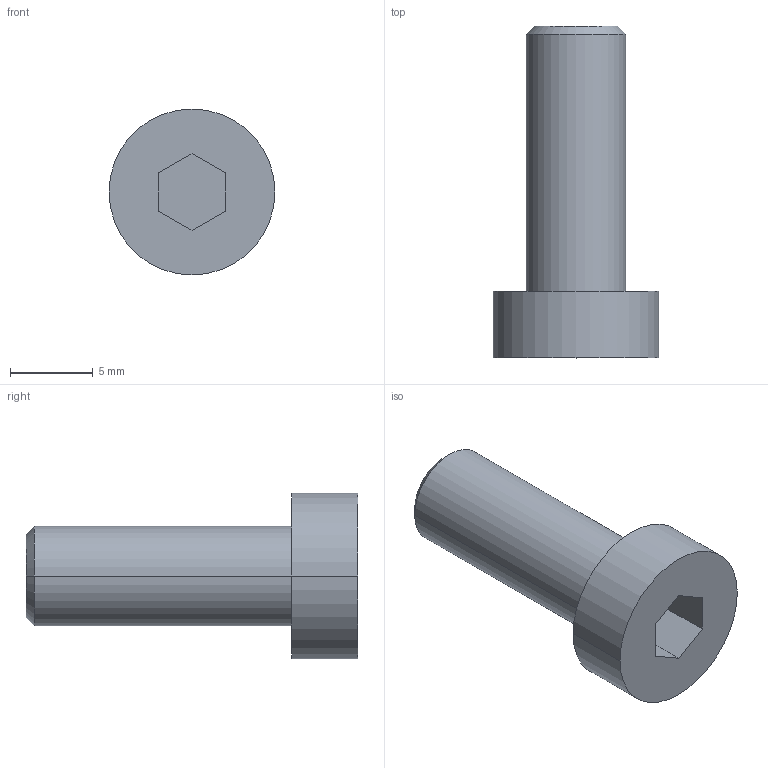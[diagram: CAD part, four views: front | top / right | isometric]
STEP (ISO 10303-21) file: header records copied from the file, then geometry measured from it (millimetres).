
FILE_DESCRIPTION((''),'2;1');
FILE_NAME('VTCEI0616','2002-12-27T',('Lipro doo'),('Lipro d.o.o.'),'PRO/ENGINEER BY PARAMETRIC TECHNOLOGY CORPORATION, 2001150','PRO/ENGINEER BY PARAMETRIC TECHNOLOGY CORPORATION, 2001150','');
FILE_SCHEMA(('CONFIG_CONTROL_DESIGN'));
Length unit declared in the file: millimetre
Products named in the file (1): VTCEI0616
Bounding box: 10 x 20 x 10 mm (x, y, z)
Volume: 722.8 mm3; surface area: 871.4 mm2
Topology: 1 solids, 2 shells, 18 faces, 40 edges, 26 vertices
Faces by surface type: plane 10, cylinder 6, cone 2
Entity records: 546 total; most frequent: DIRECTION 92, CARTESIAN_POINT 85, ORIENTED_EDGE 76, EDGE_CURVE 40, AXIS2_PLACEMENT_3D 33, VECTOR 26, LINE 26, VERTEX_POINT 26
